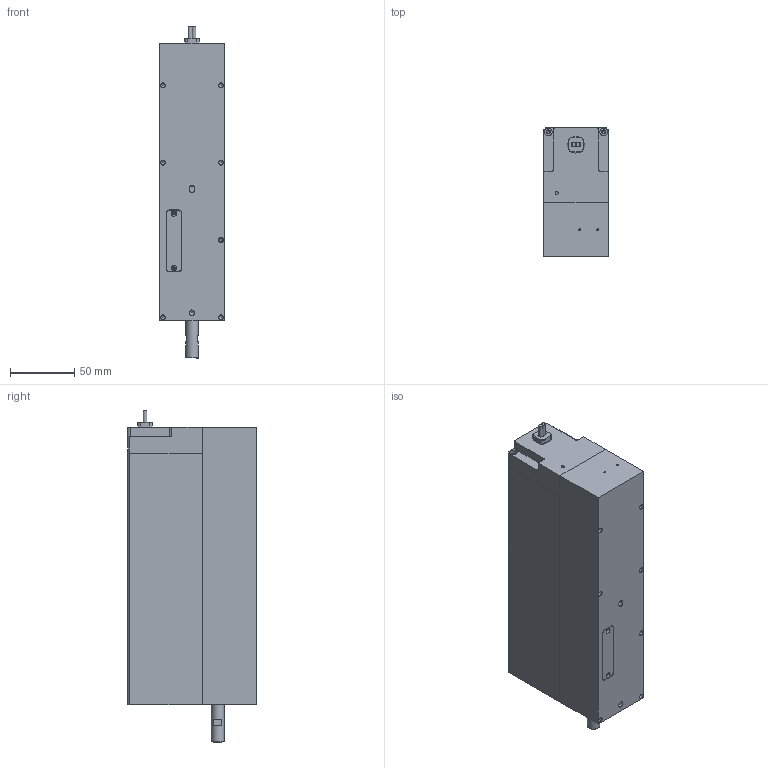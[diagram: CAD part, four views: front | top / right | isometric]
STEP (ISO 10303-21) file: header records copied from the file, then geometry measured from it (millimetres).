
FILE_DESCRIPTION((''),'2;1');
FILE_NAME('M:\P&VEND\ENGINEERING DATA BASE\DWG (TRANSFER)\KARL\LCA 50-050-8 EXPORT.stp','2011-11-04T11:48:30',('mark'),(''),'Autodesk Inventor 2008','Autodesk Inventor 2008','');
FILE_SCHEMA(('AUTOMOTIVE_DESIGN { 1 0 10303 214 1 1 1 1 }'));
Length unit declared in the file: millimetre
Products named in the file (10): LCA 50-050-8 EXPORT; C-POLE 50-50-8; MAG HSG 50-50-8 MOD 1524; BODY 50-50-8; CONN. COVER 050; BUSHING RETAINER; 22811-03_A; FEMALE SHAFT V3 50; CABLE-G; STOPPER
Assembly tree (9 placements, depth 2):
  LCA 50-050-8 EXPORT
    C-POLE 50-50-8
    MAG HSG 50-50-8 MOD 1524
    BODY 50-50-8
    CONN. COVER 050
    BUSHING RETAINER
    22811-03_A
    FEMALE SHAFT V3 50
    CABLE-G
    STOPPER
Bounding box: 50 x 100 x 257.5 mm (x, y, z)
Volume: 496435.8 mm3; surface area: 178139.4 mm2
Topology: 9 solids, 9 shells, 438 faces, 1167 edges, 758 vertices
Faces by surface type: plane 191, bspline 159, cylinder 72, cone 8, torus 8
Full cylindrical faces by diameter (mm): 2.9 x1, 3 x3, 4.5 x1, 10 x1, 10.5 x1, 12.3 x1, 12.5 x1, 16.5 x1
Entity records: 14452 total; most frequent: CARTESIAN_POINT 4665, DIRECTION 1872, ORIENTED_EDGE 1842, EDGE_CURVE 921, EDGE_LOOP 669, VERTEX_POINT 665, AXIS2_PLACEMENT_3D 664, VECTOR 544
